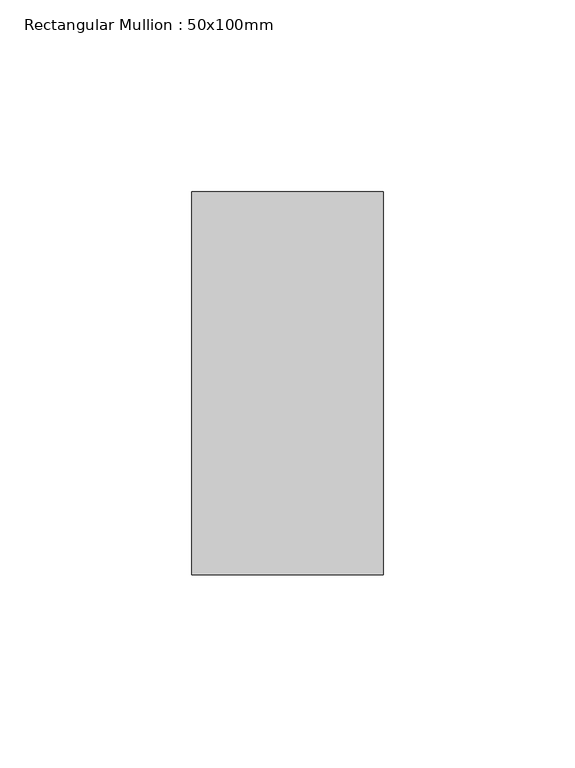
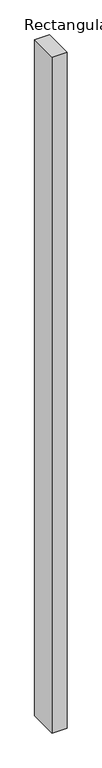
"""IFC4 building model written with IfcOpenShell, lengths in millimetres: member geometry, Rectangular Mullion : 50x100mm."""

from ifc_helpers import new_model, si_unit, frame, origin, place, context, project, spatial, polyline, outline, extrude, source, transform, mapped, element, save


def rectangular_mullion_50x100mm_02fbce15(model_context):
    return source(origin(), model_context, "Body", "SweptSolid", [
        extrude(outline(polyline([(0.0, 50.0), (0.0, -50.0), (-50.0, -50.0), (-50.0, 50.0), (0.0, 50.0)])), frame((0.0, 0.0, -2380.0), z_axis=(0.0, 0.0, 1.0), x_axis=(1.0, 0.0, 0.0)), (0.0, 0.0, 1.0), 2380.0),
    ])


if __name__ == "__main__":
    model = new_model("IFC4")
    model_context = context("Model", 3, world=origin())
    ifc_project = project(units=[si_unit("LENGTHUNIT", "METRE", prefix="MILLI")], contexts=[model_context])
    site = spatial("IfcSite", under=ifc_project)
    building = spatial("IfcBuilding", under=site)
    placement = place(None, origin())
    rectangular_mullion_50x100mm_shape = rectangular_mullion_50x100mm_02fbce15(model_context)
    element("IfcMember", 1, ObjectType="Rectangular Mullion : 50x100mm", at=placement, inside=building, context=model_context, shape_type="MappedRepresentation", body=[
        mapped(rectangular_mullion_50x100mm_shape, transform((0.0, 0.0, 0.0), x_axis=(1.0, 0.0, 0.0), y_axis=(0.0, 1.0, 0.0), z_axis=(0.0, 0.0, 1.0))),
    ])
    save(model, "model.ifc")
